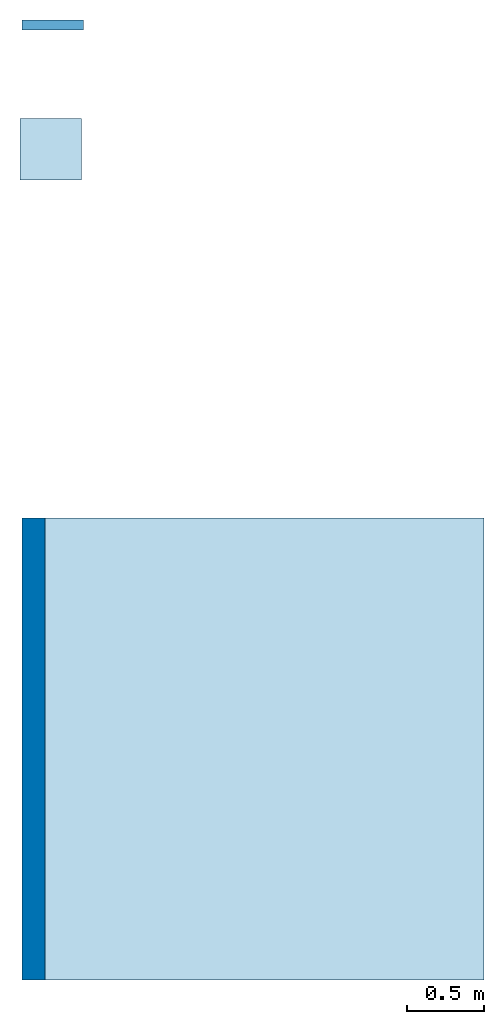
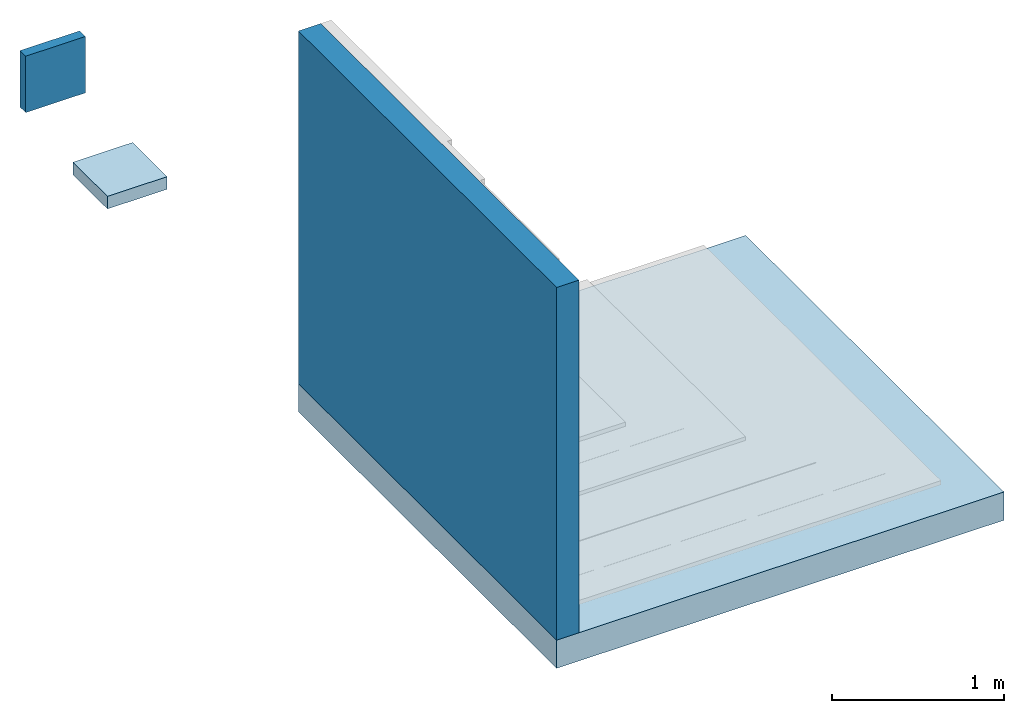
# One storey, part 1 of 2: 2 slabs, 2 walls.
"""IFC2X3 building model written with IfcOpenShell, lengths in metres."""

from ifc_helpers import new_model, entity, si_unit, converted_unit, derived_unit, direction, frame, frame_2d, origin, origin_2d_with_axis, place, context, subcontext, project, spatial, rectangle, extrude, material, layer, layer_set, layer_usage, type_object, element, save


model = new_model("IFC2X3")

# Units and contexts
model_context = context("Model", 3, precision=1e-05, world=origin(), true_north=direction((6.123031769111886e-17, 1.0)))
body_context = subcontext(model_context, "Body", "Model", "MODEL_VIEW")
ifc_project = project(units=[si_unit("LENGTHUNIT", "METRE"), si_unit("AREAUNIT", "SQUARE_METRE"), si_unit("VOLUMEUNIT", "CUBIC_METRE"), converted_unit("PLANEANGLEUNIT", "DEGREE", entity("IfcRatioMeasure", 0.017453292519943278), si_unit("PLANEANGLEUNIT", "RADIAN"), dimensions=[0, 0, 0, 0, 0, 0, 0]), si_unit("MASSUNIT", "GRAM", prefix="KILO"), derived_unit("MASSDENSITYUNIT", [(si_unit("MASSUNIT", "GRAM", prefix="KILO"), 1), (si_unit("LENGTHUNIT", "METRE"), -3)]), derived_unit("IONCONCENTRATIONUNIT", [(si_unit("MASSUNIT", "GRAM", prefix="KILO"), 1), (si_unit("LENGTHUNIT", "METRE"), -3)]), derived_unit("MOMENTOFINERTIAUNIT", [(si_unit("LENGTHUNIT", "METRE"), 4)]), si_unit("TIMEUNIT", "SECOND"), si_unit("FREQUENCYUNIT", "HERTZ"), si_unit("THERMODYNAMICTEMPERATUREUNIT", "DEGREE_CELSIUS"), derived_unit("THERMALTRANSMITTANCEUNIT", [(si_unit("MASSUNIT", "GRAM", prefix="KILO"), 1), (si_unit("THERMODYNAMICTEMPERATUREUNIT", "KELVIN"), -1), (si_unit("TIMEUNIT", "SECOND"), -3)]), derived_unit("THERMALCONDUCTANCEUNIT", [(si_unit("MASSUNIT", "GRAM", prefix="KILO"), 1), (si_unit("THERMODYNAMICTEMPERATUREUNIT", "KELVIN"), -1), (si_unit("TIMEUNIT", "SECOND"), -3), (si_unit("LENGTHUNIT", "METRE"), 1)]), derived_unit("VOLUMETRICFLOWRATEUNIT", [(si_unit("LENGTHUNIT", "METRE"), 3), (si_unit("TIMEUNIT", "SECOND"), -1)]), derived_unit("MASSFLOWRATEUNIT", [(si_unit("MASSUNIT", "GRAM", prefix="KILO"), 1), (si_unit("TIMEUNIT", "SECOND"), -1)]), derived_unit("ROTATIONALFREQUENCYUNIT", [(si_unit("TIMEUNIT", "SECOND"), -1)]), si_unit("ELECTRICCURRENTUNIT", "AMPERE"), si_unit("ELECTRICVOLTAGEUNIT", "VOLT"), si_unit("POWERUNIT", "WATT"), si_unit("FORCEUNIT", "NEWTON", prefix="KILO"), si_unit("ILLUMINANCEUNIT", "LUX"), si_unit("LUMINOUSFLUXUNIT", "LUMEN"), si_unit("LUMINOUSINTENSITYUNIT", "CANDELA"), derived_unit("USERDEFINED", [(si_unit("MASSUNIT", "GRAM", prefix="KILO"), -1), (si_unit("LENGTHUNIT", "METRE"), -2), (si_unit("TIMEUNIT", "SECOND"), 3), (si_unit("LUMINOUSFLUXUNIT", "LUMEN"), 1)]), derived_unit("USERDEFINED", [(si_unit("MASSUNIT", "GRAM", prefix="KILO"), 1), (si_unit("TIMEUNIT", "SECOND"), -3), (si_unit("LENGTHUNIT", "METRE"), 3), (si_unit("ELECTRICCURRENTUNIT", "AMPERE"), -2)]), derived_unit("SOUNDPOWERUNIT", [(si_unit("MASSUNIT", "GRAM", prefix="KILO"), 1), (si_unit("TIMEUNIT", "SECOND"), -3), (si_unit("LENGTHUNIT", "METRE"), 2)]), derived_unit("SOUNDPRESSUREUNIT", [(si_unit("MASSUNIT", "GRAM", prefix="KILO"), 1), (si_unit("LENGTHUNIT", "METRE"), -1), (si_unit("TIMEUNIT", "SECOND"), -2)]), derived_unit("LINEARVELOCITYUNIT", [(si_unit("LENGTHUNIT", "METRE"), 1), (si_unit("TIMEUNIT", "SECOND"), -1)]), si_unit("PRESSUREUNIT", "PASCAL"), derived_unit("USERDEFINED", [(si_unit("MASSUNIT", "GRAM", prefix="KILO"), 1), (si_unit("LENGTHUNIT", "METRE"), -2), (si_unit("TIMEUNIT", "SECOND"), -2)]), derived_unit("LINEARFORCEUNIT", [(si_unit("MASSUNIT", "GRAM", prefix="KILO"), 1), (si_unit("TIMEUNIT", "SECOND"), -2)]), derived_unit("PLANARFORCEUNIT", [(si_unit("MASSUNIT", "GRAM", prefix="KILO"), 1), (si_unit("LENGTHUNIT", "METRE"), -1), (si_unit("TIMEUNIT", "SECOND"), -2)]), derived_unit("SPECIFICHEATCAPACITYUNIT", [(si_unit("THERMODYNAMICTEMPERATUREUNIT", "KELVIN"), -1), (si_unit("LENGTHUNIT", "METRE"), 2), (si_unit("TIMEUNIT", "SECOND"), -2)]), derived_unit("HEATINGVALUEUNIT", [(si_unit("LENGTHUNIT", "METRE"), 2), (si_unit("TIMEUNIT", "SECOND"), -2)]), derived_unit("VAPORPERMEABILITYUNIT", [(si_unit("LENGTHUNIT", "METRE"), -1), (si_unit("TIMEUNIT", "SECOND"), 1)]), derived_unit("DYNAMICVISCOSITYUNIT", [(si_unit("MASSUNIT", "GRAM", prefix="KILO"), 1), (si_unit("TIMEUNIT", "SECOND"), -1), (si_unit("LENGTHUNIT", "METRE"), -1)]), derived_unit("THERMALEXPANSIONCOEFFICIENTUNIT", [(si_unit("THERMODYNAMICTEMPERATUREUNIT", "KELVIN"), -1)]), derived_unit("MODULUSOFELASTICITYUNIT", [(si_unit("MASSUNIT", "GRAM", prefix="KILO"), 1), (si_unit("LENGTHUNIT", "METRE"), -1), (si_unit("TIMEUNIT", "SECOND"), -2)]), derived_unit("ISOTHERMALMOISTURECAPACITYUNIT", [(si_unit("LENGTHUNIT", "METRE"), 3), (si_unit("MASSUNIT", "GRAM", prefix="KILO"), -1)]), derived_unit("MOISTUREDIFFUSIVITYUNIT", [(si_unit("TIMEUNIT", "SECOND"), -1), (si_unit("LENGTHUNIT", "METRE"), 2)])], contexts=[model_context])

# Site, building, storey
site_placement = place(None, origin())
site = spatial("IfcSite", under=ifc_project, at=site_placement, Name="Default", CompositionType="ELEMENT")
building_placement = place(site_placement, origin())
building = spatial("IfcBuilding", under=site, at=building_placement, CompositionType="ELEMENT")
storey_placement = place(building_placement, frame((0.0, 0.0, -0.0025237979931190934)))
storey = spatial("IfcBuildingStorey", under=building, at=storey_placement, Name="ARQ Térreo", CompositionType="ELEMENT", Elevation=-0.0025237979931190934)

# Slabs
ifc_material_1 = material(Name="#concreto")
ifc_layer_1 = layer(ifc_material_1, 0.2)
ifc_layer_set_1 = layer_set([ifc_layer_1], Name="Piso:Piso:LAJE CONCRETO")
ifc_layer_usage_1 = layer_usage(ifc_layer_set_1, "AXIS3", "POSITIVE", 0.0)
slab_type_1 = type_object("IfcSlabType", Name="Piso:Piso:LAJE CONCRETO", PredefinedType="FLOOR", material=ifc_layer_set_1)
slab_1_placement = place(storey_placement, origin())
element("IfcSlab", 1, at=slab_1_placement, inside=storey, type_object=slab_type_1, material=ifc_layer_usage_1, Name="Piso:Piso:LAJE CONCRETO", ObjectType="Piso:Piso:LAJE CONCRETO", PredefinedType="FLOOR", context=body_context, shape_type="SweptSolid", body=[
    extrude(rectangle(XDim=3.0000000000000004, YDim=3.0000000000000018, at=origin_2d_with_axis()), frame((0.9980295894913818, -1.354129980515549, 0.0), z_axis=(0.0, 0.0, -1.0), x_axis=(0.0, 1.0, 0.0)), (0.0, 0.0, 1.0), 0.2),
])
ifc_material_2 = material(Name="#proteção mecânica")
ifc_layer_2 = layer(ifc_material_2, 0.03)
ifc_material_3 = material(Name="#XPS")
ifc_layer_3 = layer(ifc_material_3, 0.025)
ifc_material_4 = material(Name="# Torodin 3mm - TIPO III - Classe A")
ifc_layer_4 = layer(ifc_material_4, 0.003)
ifc_material_5 = material(Name="#Primer Adeflex")
ifc_layer_5 = layer(ifc_material_5, 0.0009999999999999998)
ifc_material_6 = material(Name="#argamassa")
ifc_layer_6 = layer(ifc_material_6, 0.03)
ifc_layer_set_2 = layer_set([ifc_layer_2, ifc_layer_3, ifc_layer_4, ifc_layer_5, ifc_layer_6], Name="Piso:IMPH_T4PP")
ifc_layer_usage_2 = layer_usage(ifc_layer_set_2, "AXIS3", "POSITIVE", 0.0)
slab_type_2 = type_object("IfcSlabType", Name="Piso:IMPH_T4PP", PredefinedType="FLOOR", material=ifc_layer_set_2)
slab_2_placement = place(storey_placement, origin())
element("IfcSlab", 2, at=slab_2_placement, inside=storey, type_object=slab_type_2, material=ifc_layer_usage_2, Name="Piso:IMPH_T4PP", ObjectType="Piso:IMPH_T4PP", PredefinedType="FLOOR", context=body_context, shape_type="SweptSolid", body=[
    extrude(rectangle(XDim=0.4, YDim=0.4, at=origin_2d_with_axis()), frame((-0.3145300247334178, 2.540929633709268, 0.0), z_axis=(0.0, 0.0, -1.0), x_axis=(0.0, 1.0, 0.0)), (0.0, 0.0, 1.0), 0.08900000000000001),
])

# Walls
ifc_layer_7 = layer(ifc_material_1, 0.14999999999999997)
ifc_layer_set_3 = layer_set([ifc_layer_7], Name="Parede básica:Parede básica:Parede Concreto")
ifc_layer_usage_3 = layer_usage(ifc_layer_set_3, "AXIS2", "NEGATIVE", 0.07499999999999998)
wall_type_1 = type_object("IfcWallType", Name="Parede básica:Parede básica:Parede Concreto", PredefinedType="STANDARD", material=ifc_layer_set_3)
wall_1_placement = place(storey_placement, frame((-0.4269704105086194, 0.14587001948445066, 0.0), z_axis=(0.0, 0.0, 1.0), x_axis=(0.0, -1.0, 0.0)))
element("IfcWallStandardCase", 3, at=wall_1_placement, inside=storey, type_object=wall_type_1, material=ifc_layer_usage_3, Name="Parede básica:Parede Concreto", ObjectType="Parede básica:Parede Concreto", context=body_context, shape_type="SweptSolid", body=[
    extrude(rectangle(XDim=2.9999999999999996, YDim=0.15000000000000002, at=frame_2d((1.4999999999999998, 0.0), x_axis=(-1.0, 0.0))), origin(), (0.0, 0.0, 1.0), 2.4999999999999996),
])
ifc_layer_8 = layer(ifc_material_2, 0.03)
ifc_layer_9 = layer(ifc_material_3, 0.025)
ifc_material_7 = material(Name="#Vitkote Elastic")
ifc_layer_10 = layer(ifc_material_7, 0.0009999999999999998)
ifc_layer_11 = layer(ifc_material_6, 0.01)
ifc_layer_set_4 = layer_set([ifc_layer_8, ifc_layer_9, ifc_layer_10, ifc_layer_11], Name="Parede básica:IMPV_VITKOTE ELASTIC")
ifc_layer_usage_4 = layer_usage(ifc_layer_set_4, "AXIS2", "POSITIVE", -0.033)
wall_type_2 = type_object("IfcWallType", Name="Parede básica:IMPV_VITKOTE ELASTIC", PredefinedType="STANDARD", material=ifc_layer_set_4)
wall_2_placement = place(storey_placement, frame((-0.5019704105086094, 3.345870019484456, 0.0)))
element("IfcWallStandardCase", 4, at=wall_2_placement, inside=storey, type_object=wall_type_2, material=ifc_layer_usage_4, Name="Parede básica:IMPV_T4PP", ObjectType="Parede básica:IMPV_T4PP", context=body_context, shape_type="SweptSolid", body=[
    extrude(rectangle(XDim=0.4000000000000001, YDim=0.06600000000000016, at=frame_2d((0.20000000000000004, 1.249000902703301e-16), x_axis=(-1.0, 0.0))), origin(), (0.0, 0.0, 1.0), 0.4),
])

save(model, "model.ifc")
